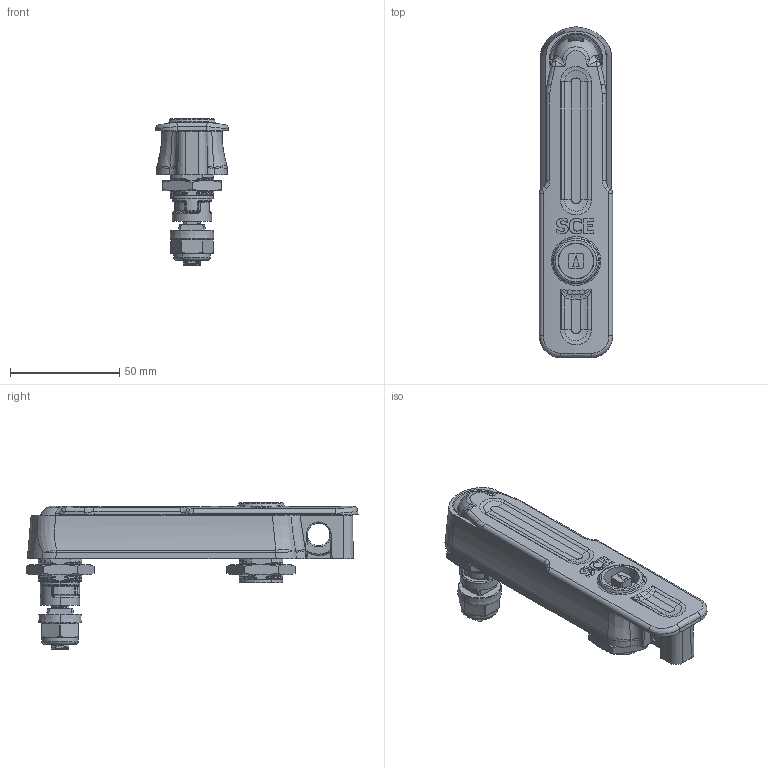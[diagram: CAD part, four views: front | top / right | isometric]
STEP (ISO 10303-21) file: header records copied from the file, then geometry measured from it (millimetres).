
FILE_DESCRIPTION((''),'2;1');
FILE_NAME('SCE-FSH7S_ASM','2024-01-17T14:20:56',('chads'),('SAGINAW CONTROL & ENGINEERING'),'CREO PARAMETRIC BY PTC INC, 2021284','CREO PARAMETRIC BY PTC INC, 2021284','');
FILE_SCHEMA(('AUTOMOTIVE_DESIGN { 1 0 10303 214 1 1 1 1 }'));
Length unit declared in the file: millimetre
Products named in the file (18): 129334-HANDLE-STOP; 129334-HANDLE-BASE; 129334-INSERT-SPRING; 129334-HANDLE-PIN; 129334-HANDLE-SHAFT; 129334-HANDLE-LOCK-SCREW; 129334-HANDLE; 129334-HANDLE-LOCK; 129334-HANDLE-SHAFT-O-RING; 129334-HANDLE_ASM; 129334-LOCK-NUT; 129334-BASE-CAP; 129334-CAM-ADAPTER; 129334-NUT; 129334_ASM; 129535; 101695; SCE-FSH7S_ASM
Assembly tree (18 placements, depth 4):
  SCE-FSH7S_ASM
    129334_ASM
      129334-HANDLE-STOP
      129334-HANDLE-BASE
      129334-HANDLE_ASM
        129334-INSERT-SPRING
        129334-HANDLE-PIN
        129334-HANDLE-SHAFT
        129334-HANDLE-LOCK-SCREW
        129334-HANDLE
        129334-HANDLE-LOCK
        129334-HANDLE-SHAFT-O-RING
      129334-LOCK-NUT
      129334-BASE-CAP
      129334-CAM-ADAPTER
      129334-NUT  x2
    129535
    101695
Bounding box: 33.56 x 152.09 x 67.62 mm (x, y, z)
Volume: 76785.7 mm3; surface area: 52570.8 mm2
Topology: 15 solids, 15 shells, 2004 faces, 5120 edges, 3051 vertices
Faces by surface type: cylinder 638, bspline 511, plane 384, cone 190, torus 179, sphere 99, extrusion 3
Entity records: 135063 total; most frequent: CARTESIAN_POINT 64837, ORIENTED_EDGE 9854, DIRECTION 7765, PRESENTATION_STYLE_ASSIGNMENT 6166, STYLED_ITEM 6166, EDGE_CURVE 4927, CURVE_STYLE 4421, AXIS2_PLACEMENT_3D 3082
